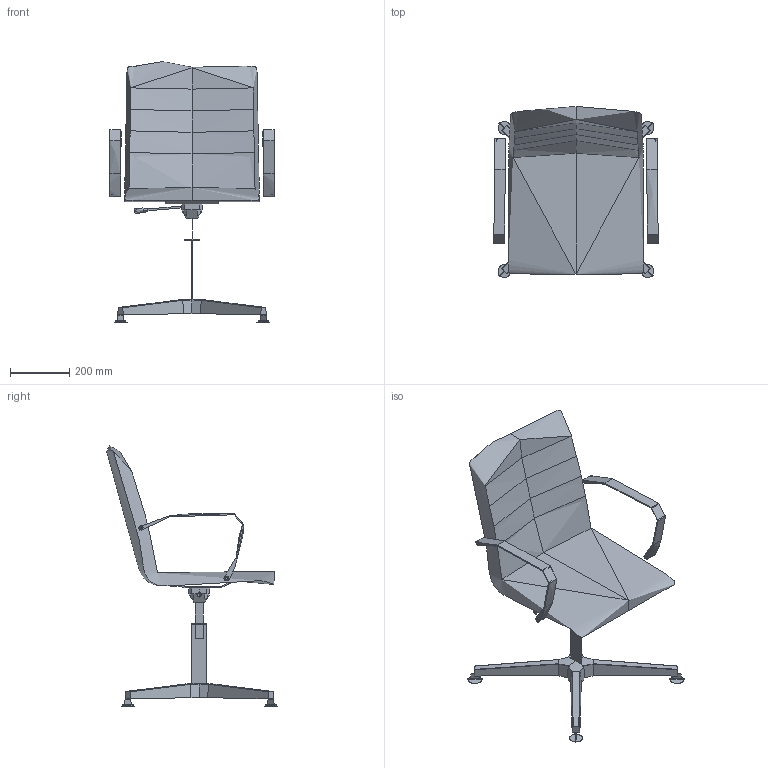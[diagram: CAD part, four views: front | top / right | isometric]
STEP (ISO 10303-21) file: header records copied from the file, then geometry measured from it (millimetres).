
FILE_DESCRIPTION(/* description */ (''),/* implementation_level */ '2;1');
FILE_NAME(/* name */ 'OSLO22~3',/* time_stamp */ '2017-08-07T21:05:17+02:00',/* author */ (''),/* organization */ (''),/* preprocessor_version */ 'ST-DEVELOPER v15',/* originating_system */ '',/* authorisation */ '');
FILE_SCHEMA (('CONFIG_CONTROL_DESIGN'));
Length unit declared in the file: millimetre
Products named in the file (1): Document
Bounding box: 553.21 x 573.98 x 877.05 mm (x, y, z)
Volume: 17616710.3 mm3; surface area: 1357234.1 mm2
Topology: 6 solids, 19 shells, 269 faces, 632 edges, 390 vertices
Faces by surface type: bspline 186, plane 83
Entity records: 13432 total; most frequent: CARTESIAN_POINT 9626, ORIENTED_EDGE 1186, EDGE_CURVE 625, VERTEX_POINT 386, B_SPLINE_CURVE_WITH_KNOTS 345, EDGE_LOOP 281, ADVANCED_FACE 269, FACE_OUTER_BOUND 269
